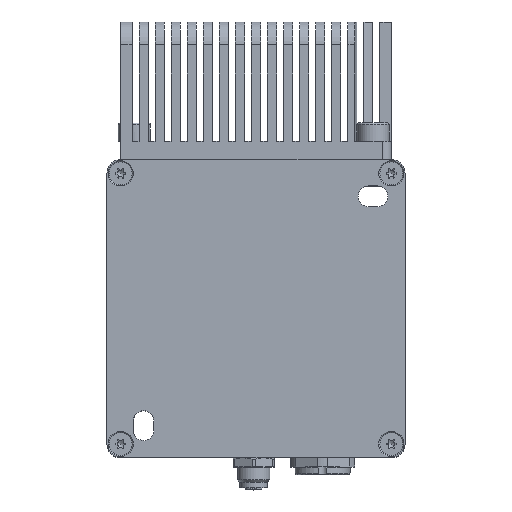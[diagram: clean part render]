
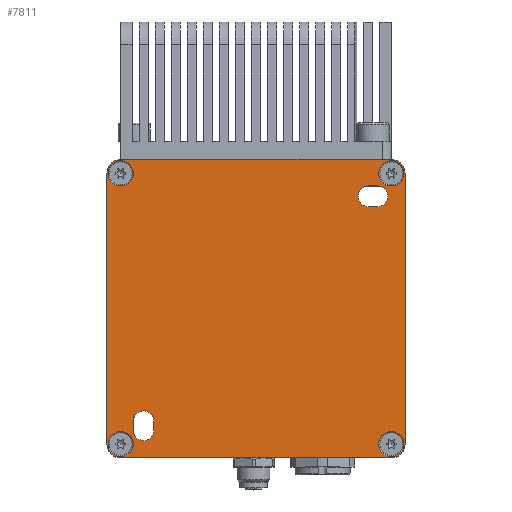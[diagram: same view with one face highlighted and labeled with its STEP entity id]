
A CAD part, top view. The second image highlights one B-rep face of the part: STEP entity #7811.
In plain terms, the highlighted planar face has unit normal (0, 0, 1).
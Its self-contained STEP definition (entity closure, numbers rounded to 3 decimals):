
#236=FACE_BOUND('',#2495,.T.);
#237=FACE_BOUND('',#2496,.T.);
#238=FACE_BOUND('',#2497,.T.);
#239=FACE_BOUND('',#2498,.T.);
#240=FACE_BOUND('',#2499,.T.);
#241=FACE_BOUND('',#2500,.T.);
#408=LINE('',#11988,#948);
#416=LINE('',#12025,#956);
#419=LINE('',#12037,#959);
#422=LINE('',#12045,#962);
#423=LINE('',#12049,#963);
#424=LINE('',#12051,#964);
#425=LINE('',#12054,#965);
#426=LINE('',#12056,#966);
#427=LINE('',#12059,#967);
#948=VECTOR('',#9685,10.);
#956=VECTOR('',#9727,10.);
#959=VECTOR('',#9742,10.);
#962=VECTOR('',#9751,10.);
#963=VECTOR('',#9758,10.);
#964=VECTOR('',#9759,10.);
#965=VECTOR('',#9762,10.);
#966=VECTOR('',#9763,10.);
#967=VECTOR('',#9766,10.);
#1618=PLANE('',#8467);
#1952=FACE_OUTER_BOUND('',#2494,.T.);
#2494=EDGE_LOOP('',(#5704,#5705,#5706,#5707,#5708,#5709,#5710,#5711,#5712));
#2495=EDGE_LOOP('',(#5713));
#2496=EDGE_LOOP('',(#5714));
#2497=EDGE_LOOP('',(#5715));
#2498=EDGE_LOOP('',(#5716));
#2499=EDGE_LOOP('',(#5717,#5718,#5719,#5720));
#2500=EDGE_LOOP('',(#5721,#5722,#5723,#5724));
#3089=CIRCLE('',#8440,2.25);
#3090=CIRCLE('',#8442,2.25);
#3092=CIRCLE('',#8446,2.75);
#3093=CIRCLE('',#8448,2.75);
#3094=CIRCLE('',#8450,2.75);
#3096=CIRCLE('',#8454,2.75);
#3097=CIRCLE('',#8457,3.);
#3098=CIRCLE('',#8459,3.);
#3100=CIRCLE('',#8463,3.);
#3101=CIRCLE('',#8466,3.);
#3102=CIRCLE('',#8468,2.25);
#3103=CIRCLE('',#8469,2.25);
#3495=VERTEX_POINT('',#11985);
#3496=VERTEX_POINT('',#11987);
#3497=VERTEX_POINT('',#11991);
#3498=VERTEX_POINT('',#11993);
#3499=VERTEX_POINT('',#11997);
#3500=VERTEX_POINT('',#11999);
#3502=VERTEX_POINT('',#12006);
#3503=VERTEX_POINT('',#12009);
#3504=VERTEX_POINT('',#12012);
#3506=VERTEX_POINT('',#12018);
#3507=VERTEX_POINT('',#12021);
#3508=VERTEX_POINT('',#12023);
#3509=VERTEX_POINT('',#12029);
#3510=VERTEX_POINT('',#12030);
#3511=VERTEX_POINT('',#12035);
#3512=VERTEX_POINT('',#12039);
#3513=VERTEX_POINT('',#12043);
#3514=VERTEX_POINT('',#12050);
#3515=VERTEX_POINT('',#12052);
#3516=VERTEX_POINT('',#12055);
#3517=VERTEX_POINT('',#12057);
#4321=EDGE_CURVE('',#3495,#3496,#408,.T.);
#4324=EDGE_CURVE('',#3498,#3497,#3089,.T.);
#4328=EDGE_CURVE('',#3499,#3500,#3090,.T.);
#4330=EDGE_CURVE('',#3502,#3502,#3092,.T.);
#4331=EDGE_CURVE('',#3503,#3503,#3093,.T.);
#4332=EDGE_CURVE('',#3504,#3504,#3094,.T.);
#4334=EDGE_CURVE('',#3506,#3506,#3096,.T.);
#4337=EDGE_CURVE('',#3508,#3507,#416,.T.);
#4338=EDGE_CURVE('',#3496,#3508,#3097,.T.);
#4339=EDGE_CURVE('',#3509,#3510,#3098,.T.);
#4343=EDGE_CURVE('',#3511,#3509,#419,.T.);
#4344=EDGE_CURVE('',#3507,#3512,#3100,.T.);
#4347=EDGE_CURVE('',#3510,#3513,#422,.T.);
#4348=EDGE_CURVE('',#3513,#3495,#3101,.T.);
#4349=EDGE_CURVE('',#3512,#3511,#423,.T.);
#4350=EDGE_CURVE('',#3500,#3514,#424,.T.);
#4351=EDGE_CURVE('',#3514,#3515,#3102,.T.);
#4352=EDGE_CURVE('',#3515,#3499,#425,.T.);
#4353=EDGE_CURVE('',#3497,#3516,#426,.T.);
#4354=EDGE_CURVE('',#3516,#3517,#3103,.T.);
#4355=EDGE_CURVE('',#3517,#3498,#427,.T.);
#5704=ORIENTED_EDGE('',*,*,#4348,.F.);
#5705=ORIENTED_EDGE('',*,*,#4347,.F.);
#5706=ORIENTED_EDGE('',*,*,#4339,.F.);
#5707=ORIENTED_EDGE('',*,*,#4343,.F.);
#5708=ORIENTED_EDGE('',*,*,#4349,.F.);
#5709=ORIENTED_EDGE('',*,*,#4344,.F.);
#5710=ORIENTED_EDGE('',*,*,#4337,.F.);
#5711=ORIENTED_EDGE('',*,*,#4338,.F.);
#5712=ORIENTED_EDGE('',*,*,#4321,.F.);
#5713=ORIENTED_EDGE('',*,*,#4334,.T.);
#5714=ORIENTED_EDGE('',*,*,#4332,.T.);
#5715=ORIENTED_EDGE('',*,*,#4331,.T.);
#5716=ORIENTED_EDGE('',*,*,#4330,.T.);
#5717=ORIENTED_EDGE('',*,*,#4350,.T.);
#5718=ORIENTED_EDGE('',*,*,#4351,.T.);
#5719=ORIENTED_EDGE('',*,*,#4352,.T.);
#5720=ORIENTED_EDGE('',*,*,#4328,.T.);
#5721=ORIENTED_EDGE('',*,*,#4353,.T.);
#5722=ORIENTED_EDGE('',*,*,#4354,.T.);
#5723=ORIENTED_EDGE('',*,*,#4355,.T.);
#5724=ORIENTED_EDGE('',*,*,#4324,.T.);
#7811=ADVANCED_FACE('',(#1952,#236,#237,#238,#239,#240,#241),#1618,.T.);
#8440=AXIS2_PLACEMENT_3D('',#11994,#9690,#9691);
#8442=AXIS2_PLACEMENT_3D('',#12001,#9697,#9698);
#8446=AXIS2_PLACEMENT_3D('',#12007,#9705,#9706);
#8448=AXIS2_PLACEMENT_3D('',#12010,#9709,#9710);
#8450=AXIS2_PLACEMENT_3D('',#12013,#9713,#9714);
#8454=AXIS2_PLACEMENT_3D('',#12019,#9721,#9722);
#8457=AXIS2_PLACEMENT_3D('',#12027,#9730,#9731);
#8459=AXIS2_PLACEMENT_3D('',#12031,#9734,#9735);
#8463=AXIS2_PLACEMENT_3D('',#12040,#9745,#9746);
#8466=AXIS2_PLACEMENT_3D('',#12047,#9754,#9755);
#8467=AXIS2_PLACEMENT_3D('',#12048,#9756,#9757);
#8468=AXIS2_PLACEMENT_3D('',#12053,#9760,#9761);
#8469=AXIS2_PLACEMENT_3D('',#12058,#9764,#9765);
#9685=DIRECTION('',(-1.,0.,0.));
#9690=DIRECTION('center_axis',(0.,0.,
-1.));
#9691=DIRECTION('ref_axis',(-1.,0.,0.));
#9697=DIRECTION('center_axis',(0.,0.,
-1.));
#9698=DIRECTION('ref_axis',(-1.,0.,0.));
#9705=DIRECTION('center_axis',(0.,0.,
-1.));
#9706=DIRECTION('ref_axis',(1.,0.,0.));
#9709=DIRECTION('center_axis',(0.,0.,
-1.));
#9710=DIRECTION('ref_axis',(1.,0.,0.));
#9713=DIRECTION('center_axis',(0.,0.,
-1.));
#9714=DIRECTION('ref_axis',(1.,0.,0.));
#9721=DIRECTION('center_axis',(0.,0.,
-1.));
#9722=DIRECTION('ref_axis',(1.,0.,0.));
#9727=DIRECTION('',(0.,1.,0.));
#9730=DIRECTION('center_axis',(0.,0.,
-1.));
#9731=DIRECTION('ref_axis',(-0.707,-0.707,0.));
#9734=DIRECTION('center_axis',(0.,0.,
-1.));
#9735=DIRECTION('ref_axis',(0.707,0.707,0.));
#9742=DIRECTION('',(1.,0.,0.));
#9745=DIRECTION('center_axis',(0.,0.,
-1.));
#9746=DIRECTION('ref_axis',(-0.707,0.707,0.));
#9751=DIRECTION('',(0.,-1.,0.));
#9754=DIRECTION('center_axis',(0.,0.,
-1.));
#9755=DIRECTION('ref_axis',(0.707,-0.707,0.));
#9756=DIRECTION('center_axis',(0.,0.,
1.));
#9757=DIRECTION('ref_axis',(1.,0.,0.));
#9758=DIRECTION('',(1.,0.,0.));
#9759=DIRECTION('',(1.,0.,0.));
#9760=DIRECTION('center_axis',(0.,0.,
-1.));
#9761=DIRECTION('ref_axis',(1.,0.,0.));
#9762=DIRECTION('',(-1.,0.,0.));
#9763=DIRECTION('',(0.,-1.,0.));
#9764=DIRECTION('center_axis',(0.,0.,
-1.));
#9765=DIRECTION('ref_axis',(1.,0.,0.));
#9766=DIRECTION('',(0.,1.,0.));
#11985=CARTESIAN_POINT('',(29.5,-32.5,26.));
#11987=CARTESIAN_POINT('',(-29.5,-32.5,26.));
#11988=CARTESIAN_POINT('',(32.5,-32.5,26.));
#11991=CARTESIAN_POINT('',(-22.25,-24.5,26.));
#11993=CARTESIAN_POINT('',(-26.75,-24.5,26.));
#11994=CARTESIAN_POINT('Origin',(-24.5,-24.5,26.));
#11997=CARTESIAN_POINT('',(24.5,22.25,26.));
#11999=CARTESIAN_POINT('',(24.5,26.75,26.));
#12001=CARTESIAN_POINT('Origin',(24.5,24.5,26.));
#12006=CARTESIAN_POINT('',(-26.75,-29.5,26.));
#12007=CARTESIAN_POINT('Origin',(-29.5,-29.5,26.));
#12009=CARTESIAN_POINT('',(-26.75,29.5,26.));
#12010=CARTESIAN_POINT('Origin',(-29.5,29.5,26.));
#12012=CARTESIAN_POINT('',(32.25,-29.5,26.));
#12013=CARTESIAN_POINT('Origin',(29.5,-29.5,26.));
#12018=CARTESIAN_POINT('',(32.25,29.5,26.));
#12019=CARTESIAN_POINT('Origin',(29.5,29.5,26.));
#12021=CARTESIAN_POINT('',(-32.5,29.5,26.));
#12023=CARTESIAN_POINT('',(-32.5,-29.5,26.));
#12025=CARTESIAN_POINT('',(-32.5,-32.5,26.));
#12027=CARTESIAN_POINT('Origin',(-29.5,-29.5,26.));
#12029=CARTESIAN_POINT('',(29.5,32.5,26.));
#12030=CARTESIAN_POINT('',(32.5,29.5,26.));
#12031=CARTESIAN_POINT('Origin',(29.5,29.5,26.));
#12035=CARTESIAN_POINT('',(27.5,32.5,26.));
#12037=CARTESIAN_POINT('',(-32.5,32.5,26.));
#12039=CARTESIAN_POINT('',(-29.5,32.5,26.));
#12040=CARTESIAN_POINT('Origin',(-29.5,29.5,26.));
#12043=CARTESIAN_POINT('',(32.5,-29.5,26.));
#12045=CARTESIAN_POINT('',(32.5,32.5,26.));
#12047=CARTESIAN_POINT('Origin',(29.5,-29.5,26.));
#12048=CARTESIAN_POINT('Origin',(0.,0.,
26.));
#12049=CARTESIAN_POINT('',(-32.5,32.5,26.));
#12050=CARTESIAN_POINT('',(26.5,26.75,26.));
#12051=CARTESIAN_POINT('',(13.25,26.75,26.));
#12052=CARTESIAN_POINT('',(26.5,22.25,26.));
#12053=CARTESIAN_POINT('Origin',(26.5,24.5,26.));
#12054=CARTESIAN_POINT('',(12.25,22.25,26.));
#12055=CARTESIAN_POINT('',(-22.25,-26.5,26.));
#12056=CARTESIAN_POINT('',(-22.25,-13.25,26.));
#12057=CARTESIAN_POINT('',(-26.75,-26.5,26.));
#12058=CARTESIAN_POINT('Origin',(-24.5,-26.5,26.));
#12059=CARTESIAN_POINT('',(-26.75,-12.25,26.));
